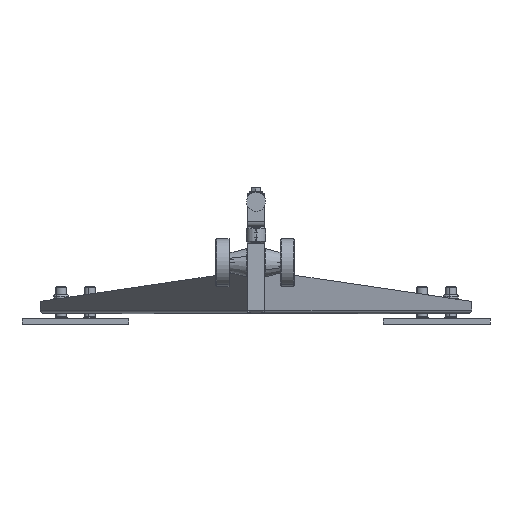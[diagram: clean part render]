
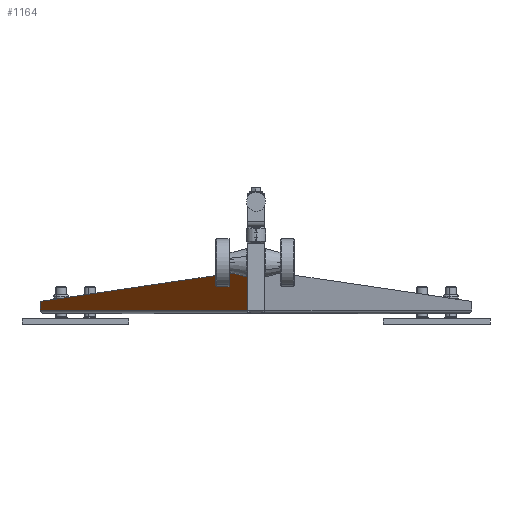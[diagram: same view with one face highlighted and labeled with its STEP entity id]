
A CAD part, left-side view. The second image highlights one B-rep face of the part: STEP entity #1164.
In plain terms, the highlighted planar face has unit normal (-0.5, 0.866, 0).
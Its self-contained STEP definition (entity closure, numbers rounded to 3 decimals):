
#40 = CARTESIAN_POINT ( 'NONE',  ( -98.25, 170.174, 0. ) ) ;
#711 = LINE ( 'NONE', #3854, #16390 ) ;
#1129 = EDGE_CURVE ( 'NONE', #3520, #8049, #2482, .T. ) ;
#1164 = ADVANCED_FACE ( 'NONE', ( #9629 ), #9109, .F. ) ;
#2482 = LINE ( 'NONE', #16515, #8944 ) ;
#2547 = VECTOR ( 'NONE', #18596, 1000. ) ;
#2832 = ORIENTED_EDGE ( 'NONE', *, *, #5339, .T. ) ;
#3109 = CARTESIAN_POINT ( 'NONE',  ( -2., 225.744, 10. ) ) ;
#3520 = VERTEX_POINT ( 'NONE', #17563 ) ;
#3598 = CARTESIAN_POINT ( 'NONE',  ( -2., 225.744, 1. ) ) ;
#3854 = CARTESIAN_POINT ( 'NONE',  ( -377., 9.238, 42. ) ) ;
#4231 = EDGE_LOOP ( 'NONE', ( #2832, #8994, #17726, #18315 ) ) ;
#5339 = EDGE_CURVE ( 'NONE', #8049, #11365, #711, .T. ) ;
#5851 = EDGE_CURVE ( 'NONE', #11365, #8256, #13062, .T. ) ;
#6162 = DIRECTION ( 'NONE',  ( 0.5, -0.866, 0. ) ) ;
#6631 = DIRECTION ( 'NONE',  ( 0., 0., -1. ) ) ;
#7883 = EDGE_CURVE ( 'NONE', #3520, #8256, #11115, .T. ) ;
#7930 = CARTESIAN_POINT ( 'NONE',  ( -2., 225.744, 1. ) ) ;
#8049 = VERTEX_POINT ( 'NONE', #8808 ) ;
#8256 = VERTEX_POINT ( 'NONE', #7930 ) ;
#8808 = CARTESIAN_POINT ( 'NONE',  ( -377., 9.238, 42. ) ) ;
#8944 = VECTOR ( 'NONE', #10377, 1000. ) ;
#8994 = ORIENTED_EDGE ( 'NONE', *, *, #5851, .T. ) ;
#9109 = PLANE ( 'NONE',  #17492 ) ;
#9629 = FACE_OUTER_BOUND ( 'NONE', #4231, .T. ) ;
#10377 = DIRECTION ( 'NONE',  ( 0., 0., 1. ) ) ;
#11115 = LINE ( 'NONE', #3598, #2547 ) ;
#11365 = VERTEX_POINT ( 'NONE', #3109 ) ;
#12136 = DIRECTION ( 'NONE',  ( 0.866, 0.5, 0. ) ) ;
#13062 = LINE ( 'NONE', #18743, #17797 ) ;
#15922 = DIRECTION ( 'NONE',  ( 0.864, 0.499, -0.074 ) ) ;
#16390 = VECTOR ( 'NONE', #15922, 1000. ) ;
#16515 = CARTESIAN_POINT ( 'NONE',  ( -377., 9.238, 0. ) ) ;
#17492 = AXIS2_PLACEMENT_3D ( 'NONE', #40, #6162, #12136 ) ;
#17563 = CARTESIAN_POINT ( 'NONE',  ( -377., 9.238, 1. ) ) ;
#17726 = ORIENTED_EDGE ( 'NONE', *, *, #7883, .F. ) ;
#17797 = VECTOR ( 'NONE', #6631, 1000. ) ;
#18315 = ORIENTED_EDGE ( 'NONE', *, *, #1129, .T. ) ;
#18596 = DIRECTION ( 'NONE',  ( 0.866, 0.5, 0. ) ) ;
#18743 = CARTESIAN_POINT ( 'NONE',  ( -2., 225.744, 0. ) ) ;
